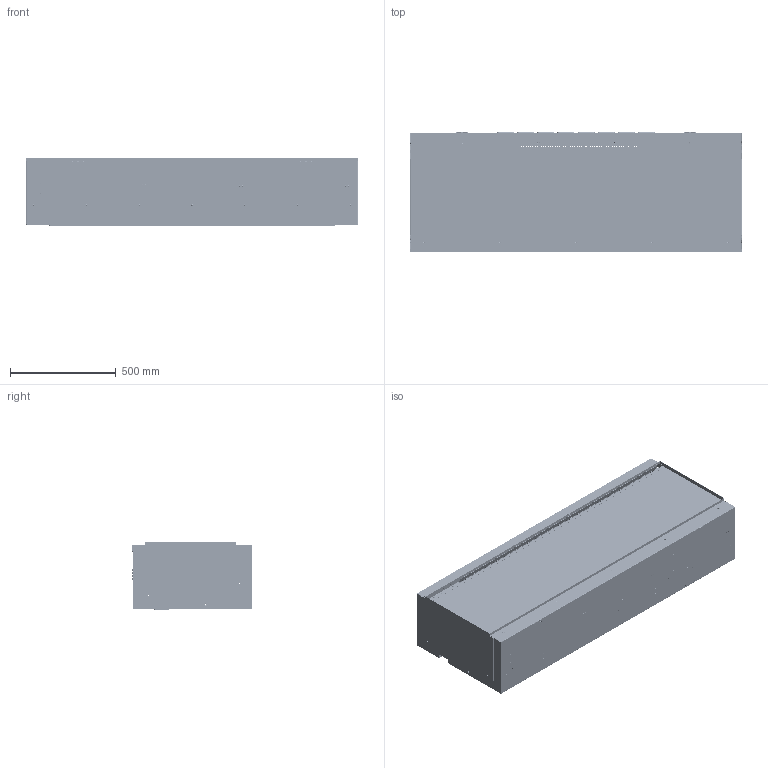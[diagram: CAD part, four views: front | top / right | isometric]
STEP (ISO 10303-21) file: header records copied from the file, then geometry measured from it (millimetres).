
FILE_DESCRIPTION (( 'STEP AP203' ), '1' );
FILE_NAME ('EF623A-00 軞蚾芞 - 楷諦誧.STEP', '2025-10-09T01:31:56', ( 'asus' ), ( 'Microsoft' ), 'SwSTEP 2.0', 'SolidWorks 2010', '' );
FILE_SCHEMA (( 'CONFIG_CONTROL_DESIGN' ));
Products named in the file (67): EF622A.06.01-02; EF622A.06.01-03; EF622A.06.01-04; EF622A.07.01-00; EF622A.07.01-01; EF622A.07.01-02; AP.JGJ.0470-00 M3×16_钢,镀蓝锌; EF622A.02-00; EF622A.02-01; AP.JGJ.0464-00 M4×7; EF622A.03-00; EF622A.03-01; EF622A.02-02; EF622A.02-03; EF600A.00-17; EF622A.00-11; EF343A.00-18_蚾饜; EF622A.00-19; EF135A.00-29; EF622A.16-00; AP.JGJ.0600-00 M3×6_钢,镀蓝锌; EF622A.16-01; EF622A.00-150_默认SM-FLAT-PATTERN; EF623A.00-150_默认SM-FLAT-PATTERN; EF622A.07-03; EF623A-00 軞蚾芞 - 楷諦誧; EF623A.00-03; EF623A.00-04; EF623A.00-05; EF623A.00-10_默认SM-FLAT-PATTERN; EF623A.00-12; EF623A.00-13; EF623A.00-14; EF623A.00-15; EF623A.00-22; EF623A.01-00; EF623A.01-01; EF213A.03-04; EF623A.00-01; AP.JGJ.0111-00 3.2×9_钢,镀黑锌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
Assembly tree (134 placements, depth 3):
  EF623A-00 軞蚾芞 - 楷諦誧
    EF623A.00-10_默认SM-FLAT-PATTERN
    EF623A.08-00
      EF622A.08-06  x10
      EF622A.08-05
      EF622A.08-04
      EF622A.08-03  x2
      EF622A.08-02
      EF623A.08-01
    EF622A.00-11  x2
    EF623A.00-05
    EF623A.00-150_默认SM-FLAT-PATTERN
    EF622A.07-03
    EF622A.06.01-00
      EF622A.06.01-02  x3
      EF622A.06.01-01
      EF622A.06.01-04
      EF622A.06.01-03  x4
    EF343A.00-18_蚾饜  x4
    EF623A.10-00
      EF623A.10-01
      EF623A.10-02
    EF622A.00-150_默认SM-FLAT-PATTERN
    EF623A.11-00
      EF622A.11-03
      EF622A.11-02
      EF623A.11-01
    EF135A.00-29  x2
    EF623A.00-04
    EF623A.01-00
      AP.JGJ.0111-00 3.2×9_钢,镀黑锌  x15
      EF213A.03-04
      EF548A.03-03  x3
      EF623A.01-01
      EF623A.00-01
    EF622A.00-23
    EF622A.07.01-00
      EF622A.07.01-02  x2
      EF622A.07.01-01
      AP.JGJ.0470-00 M3×16_钢,镀蓝锌  x2
    EF623A.00-03
    EF623A.00-22
    EF623A.00-01
    EF622A.00-19  x2
    EF623A.00-15
    EF172C.00-38_默认SM-FLAT-PATTERN
    EF622A.03-00
      EF600A.00-17
      EF622A.02-03
      EF622A.02-02
      EF622A.03-01
    EF622A.00-06_默认SM-FLAT-PATTERN
    EF622A.16-00  x2
      EF622A.16-01
      AP.JGJ.0600-00 M3×6_钢,镀蓝锌
    EF623A.00-14
    EF622A.02-00
      AP.JGJ.0464-00 M4×7  x4
      EF622A.02-03
      EF622A.02-02
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Bounding box: 1572.4 x 573 x 317.4 mm (x, y, z)
Volume: 12244413.6 mm3; surface area: 13258162.4 mm2
Topology: 125 solids, 125 shells, 10649 faces, 27606 edges, 17050 vertices
Faces by surface type: plane 5561, cylinder 3598, torus 810, cone 330, sphere 176, bspline 174
Entity records: 266839 total; most frequent: CARTESIAN_POINT 50943, DIRECTION 43808, ORIENTED_EDGE 42610, EDGE_CURVE 21305, AXIS2_PLACEMENT_3D 15123, LINE 13562, VECTOR 13562, VERTEX_POINT 13214
